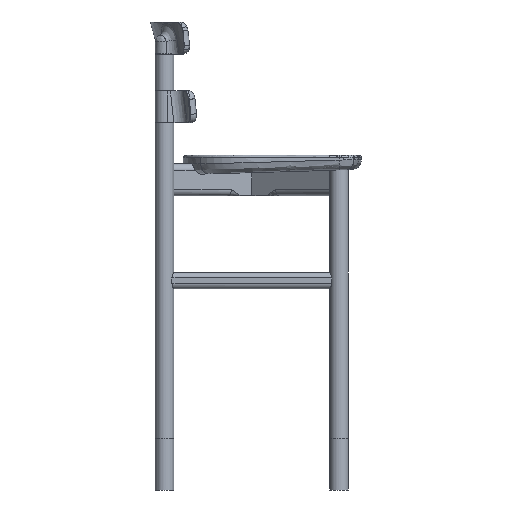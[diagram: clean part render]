
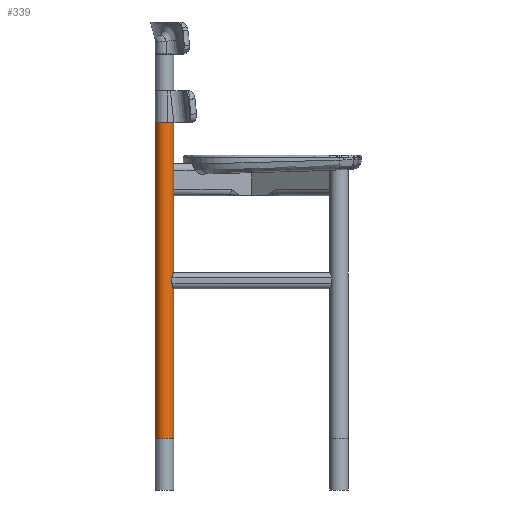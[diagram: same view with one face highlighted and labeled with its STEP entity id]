
A CAD part, left-side view. The second image highlights one B-rep face of the part: STEP entity #339.
In plain terms, the highlighted cylindrical face has radius 21.5 mm (diameter 43 mm), a partial arc.
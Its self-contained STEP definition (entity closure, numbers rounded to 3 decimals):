
#339=ADVANCED_FACE('',(#812),#7070,.T.);
#812=FACE_OUTER_BOUND('',#1285,.T.);
#1285=EDGE_LOOP('',(#1805,#1806,#1807,#1808));
#1805=ORIENTED_EDGE('',*,*,#3880,.F.);
#1806=ORIENTED_EDGE('',*,*,#3878,.F.);
#1807=ORIENTED_EDGE('',*,*,#3881,.T.);
#1808=ORIENTED_EDGE('',*,*,#3879,.T.);
#3878=EDGE_CURVE('',#6383,#6382,#5585,.T.);
#3879=EDGE_CURVE('',#6381,#6384,#5586,.T.);
#3880=EDGE_CURVE('',#6382,#6384,#4913,.T.);
#3881=EDGE_CURVE('',#6383,#6381,#4914,.T.);
#4913=B_SPLINE_CURVE_WITH_KNOTS('',1,(#9023,#9024),.UNSPECIFIED.,.F.,.F.,
(2,2),(0.,735.),.UNSPECIFIED.);
#4914=B_SPLINE_CURVE_WITH_KNOTS('',1,(#9025,#9026),.UNSPECIFIED.,.F.,.F.,
(2,2),(0.,735.),.UNSPECIFIED.);
#5585=TRIMMED_CURVE($,#5979,(#9018),(#9019),.T.,.CARTESIAN.);
#5586=TRIMMED_CURVE($,#5980,(#9021),(#9022),.T.,.CARTESIAN.);
#5979=CIRCLE('',#7324,21.5);
#5980=CIRCLE('',#7325,21.5);
#6381=VERTEX_POINT('',#9007);
#6382=VERTEX_POINT('',#9008);
#6383=VERTEX_POINT('',#9009);
#6384=VERTEX_POINT('',#9010);
#7070=CYLINDRICAL_SURFACE('',#7319,21.5);
#7319=AXIS2_PLACEMENT_3D('',#9002,#7942,$);
#7324=AXIS2_PLACEMENT_3D($,#9017,#7948,#7949);
#7325=AXIS2_PLACEMENT_3D($,#9020,#7950,#7951);
#7942=DIRECTION('',(0.,0.,-1.));
#7948=DIRECTION('',(0.,0.,1.));
#7949=DIRECTION('',(0.,1.,0.));
#7950=DIRECTION('',(0.,0.,1.));
#7951=DIRECTION('',(0.,1.,0.));
#9002=CARTESIAN_POINT('',(-169.209,478.797,487.5));
#9007=CARTESIAN_POINT('',(-169.209,500.297,120.));
#9008=CARTESIAN_POINT('',(-169.209,457.297,855.));
#9009=CARTESIAN_POINT('',(-169.209,500.297,855.));
#9010=CARTESIAN_POINT('',(-169.209,457.297,120.));
#9017=CARTESIAN_POINT('',(-169.209,478.797,855.));
#9018=CARTESIAN_POINT('',(-169.209,500.297,855.));
#9019=CARTESIAN_POINT('',(-169.209,457.297,855.));
#9020=CARTESIAN_POINT('',(-169.209,478.797,120.));
#9021=CARTESIAN_POINT('',(-169.209,500.297,120.));
#9022=CARTESIAN_POINT('',(-169.209,457.297,120.));
#9023=CARTESIAN_POINT('',(-169.209,457.297,855.));
#9024=CARTESIAN_POINT('',(-169.209,457.297,120.));
#9025=CARTESIAN_POINT('',(-169.209,500.297,855.));
#9026=CARTESIAN_POINT('',(-169.209,500.297,120.));
